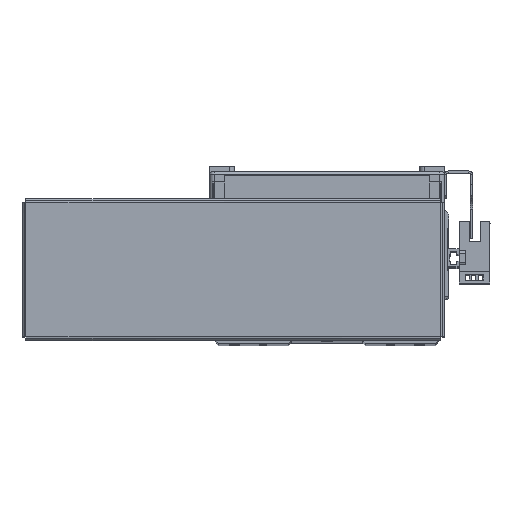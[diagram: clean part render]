
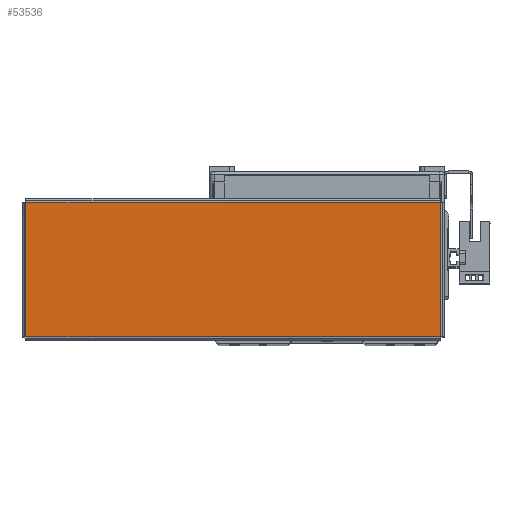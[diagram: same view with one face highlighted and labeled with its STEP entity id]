
A CAD part, top view. The second image highlights one B-rep face of the part: STEP entity #53536.
In plain terms, the highlighted planar face has unit normal (0, 0, 1) as drawn and (0, -1, 0) by its records, which use the part's own axes.
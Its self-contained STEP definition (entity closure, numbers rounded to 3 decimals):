
#6179 = VERTEX_POINT ( 'NONE', #24179 ) ;
#9503 = VERTEX_POINT ( 'NONE', #46107 ) ;
#18859 = EDGE_LOOP ( 'NONE', ( #28579, #28598, #28524, #28594 ) ) ;
#21691 = AXIS2_PLACEMENT_3D ( 'NONE', #58577, #58614, #58564 ) ;
#22252 = LINE ( 'NONE', #23657, #22309 ) ;
#22260 = LINE ( 'NONE', #23648, #22293 ) ;
#22293 = VECTOR ( 'NONE', #23649, 1000. ) ;
#22309 = VECTOR ( 'NONE', #23658, 1000. ) ;
#22348 = LINE ( 'NONE', #23820, #22349 ) ;
#22349 = VECTOR ( 'NONE', #23808, 1000. ) ;
#22393 = LINE ( 'NONE', #23883, #22401 ) ;
#22401 = VECTOR ( 'NONE', #23875, 1000. ) ;
#23648 = CARTESIAN_POINT ( 'NONE',  ( -91.863, -1., 29.793 ) ) ;
#23649 = DIRECTION ( 'NONE',  ( 0., 0., -1. ) ) ;
#23657 = CARTESIAN_POINT ( 'NONE',  ( -91.893, -1., -29.763 ) ) ;
#23658 = DIRECTION ( 'NONE',  ( 1., 0., 0. ) ) ;
#23808 = DIRECTION ( 'NONE',  ( 0., 0., 1. ) ) ;
#23820 = CARTESIAN_POINT ( 'NONE',  ( 91.863, -1., -29.793 ) ) ;
#23875 = DIRECTION ( 'NONE',  ( -1., 0., 0. ) ) ;
#23883 = CARTESIAN_POINT ( 'NONE',  ( 91.893, -1., 29.763 ) ) ;
#24179 = CARTESIAN_POINT ( 'NONE',  ( -91.863, -1., 29.763 ) ) ;
#25992 = VERTEX_POINT ( 'NONE', #47171 ) ;
#26013 = VERTEX_POINT ( 'NONE', #47243 ) ;
#28524 = ORIENTED_EDGE ( 'NONE', *, *, #46598, .T. ) ;
#28579 = ORIENTED_EDGE ( 'NONE', *, *, #46416, .T. ) ;
#28594 = ORIENTED_EDGE ( 'NONE', *, *, #46425, .T. ) ;
#28598 = ORIENTED_EDGE ( 'NONE', *, *, #46544, .T. ) ;
#37745 = FACE_OUTER_BOUND ( 'NONE', #18859, .T. ) ;
#46107 = CARTESIAN_POINT ( 'NONE',  ( 91.863, -1., 29.763 ) ) ;
#46416 = EDGE_CURVE ( 'NONE', #26013, #25992, #22252, .T. ) ;
#46425 = EDGE_CURVE ( 'NONE', #6179, #26013, #22260, .T. ) ;
#46544 = EDGE_CURVE ( 'NONE', #25992, #9503, #22348, .T. ) ;
#46598 = EDGE_CURVE ( 'NONE', #9503, #6179, #22393, .T. ) ;
#47171 = CARTESIAN_POINT ( 'NONE',  ( 91.863, -1., -29.763 ) ) ;
#47243 = CARTESIAN_POINT ( 'NONE',  ( -91.863, -1., -29.763 ) ) ;
#53536 = ADVANCED_FACE ( 'NONE', ( #37745 ), #58602, .F. ) ;
#58564 = DIRECTION ( 'NONE',  ( 0., 0., 1. ) ) ;
#58577 = CARTESIAN_POINT ( 'NONE',  ( 0., -1., 0. ) ) ;
#58602 = PLANE ( 'NONE',  #21691 ) ;
#58614 = DIRECTION ( 'NONE',  ( 0., 1., 0. ) ) ;
